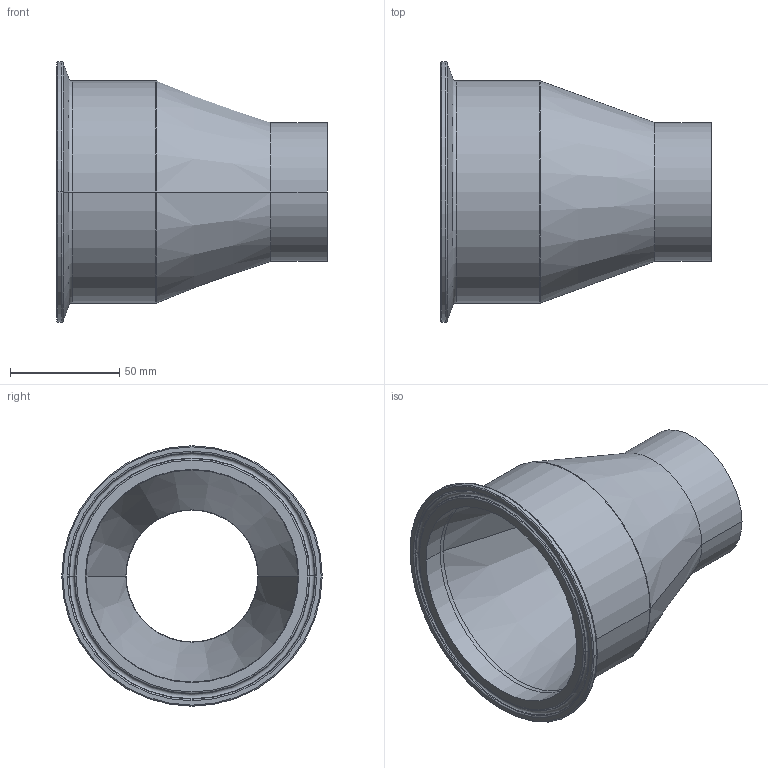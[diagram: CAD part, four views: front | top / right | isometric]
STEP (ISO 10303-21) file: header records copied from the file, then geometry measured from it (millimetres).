
FILE_DESCRIPTION (( 'STEP AP214' ), '1' );
FILE_NAME ('TE31SCW6L4.0x2.5-...STEP', '2016-05-29T12:07:10', ( 'eran' ), ( '' ), 'SwSTEP 2.0', 'SolidWorks 2016', '' );
FILE_SCHEMA (( 'AUTOMOTIVE_DESIGN' ));
Length unit declared in the file: millimetre
Products named in the file (1): TE31SCW6L4.0x2.5-..
Bounding box: 123.83 x 119 x 119 mm (x, y, z)
Volume: 212161.7 mm3; surface area: 69777.2 mm2
Topology: 1 solids, 1 shells, 41 faces, 82 edges, 44 vertices
Faces by surface type: torus 16, cone 12, cylinder 10, plane 3
Entity records: 1098 total; most frequent: DIRECTION 226, CARTESIAN_POINT 168, ORIENTED_EDGE 164, AXIS2_PLACEMENT_3D 102, EDGE_CURVE 82, CIRCLE 60, VERTEX_POINT 44, EDGE_LOOP 44
